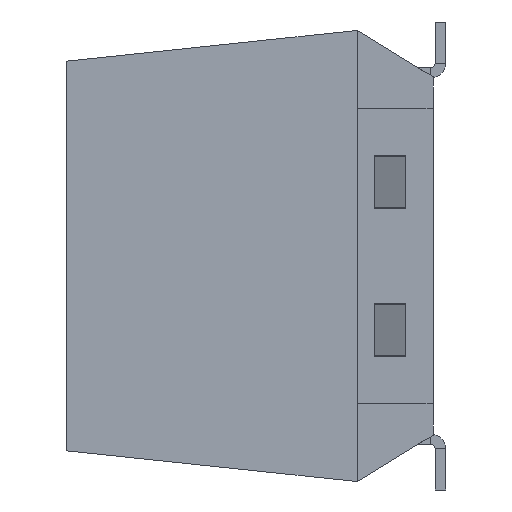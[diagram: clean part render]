
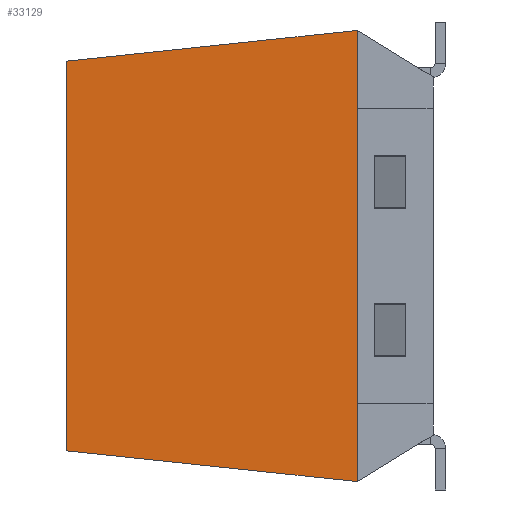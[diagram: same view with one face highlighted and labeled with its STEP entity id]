
A CAD part, left-side view. The second image highlights one B-rep face of the part: STEP entity #33129.
In plain terms, the highlighted planar face has unit normal (-1, 0.015, 0).
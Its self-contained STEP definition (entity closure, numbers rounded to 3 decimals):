
#29253 = PLANE('',#29254);
#29254 = AXIS2_PLACEMENT_3D('',#29255,#29256,#29257);
#29255 = CARTESIAN_POINT('',(7.52,9.05,0.));
#29256 = DIRECTION('',(0.,1.,0.));
#29257 = DIRECTION('',(-1.,0.,0.));
#29960 = VERTEX_POINT('',#29961);
#29961 = CARTESIAN_POINT('',(-7.52,9.05,-4.62));
#29975 = PLANE('',#29976);
#29976 = AXIS2_PLACEMENT_3D('',#29977,#29978,#29979);
#29977 = CARTESIAN_POINT('',(0.,9.05,-4.62));
#29978 = DIRECTION('',(0.,-0.105,0.994
    ));
#29979 = DIRECTION('',(0.,-0.994,
    -0.105));
#29987 = EDGE_CURVE('',#29988,#29960,#29990,.T.);
#29988 = VERTEX_POINT('',#29989);
#29989 = CARTESIAN_POINT('',(-7.52,9.05,4.62));
#29990 = SURFACE_CURVE('',#29991,(#29995,#30002),.PCURVE_S1.);
#29991 = LINE('',#29992,#29993);
#29992 = CARTESIAN_POINT('',(-7.52,9.05,0.));
#29993 = VECTOR('',#29994,1.);
#29994 = DIRECTION('',(0.,0.,-1.));
#29995 = PCURVE('',#29253,#29996);
#29996 = DEFINITIONAL_REPRESENTATION('',(#29997),#30001);
#29997 = LINE('',#29998,#29999);
#29998 = CARTESIAN_POINT('',(15.04,0.));
#29999 = VECTOR('',#30000,1.);
#30000 = DIRECTION('',(0.,-1.));
#30001 = ( GEOMETRIC_REPRESENTATION_CONTEXT(2) 
PARAMETRIC_REPRESENTATION_CONTEXT() REPRESENTATION_CONTEXT('2D SPACE',''
  ) );
#30002 = PCURVE('',#30003,#30008);
#30003 = PLANE('',#30004);
#30004 = AXIS2_PLACEMENT_3D('',#30005,#30006,#30007);
#30005 = CARTESIAN_POINT('',(-7.52,9.05,0.));
#30006 = DIRECTION('',(-1.,0.014,
    0.));
#30007 = DIRECTION('',(-0.014,-1.,
    0.));
#30008 = DEFINITIONAL_REPRESENTATION('',(#30009),#30013);
#30009 = LINE('',#30010,#30011);
#30010 = CARTESIAN_POINT('',(-0.,0.));
#30011 = VECTOR('',#30012,1.);
#30012 = DIRECTION('',(0.,-1.));
#30013 = ( GEOMETRIC_REPRESENTATION_CONTEXT(2) 
PARAMETRIC_REPRESENTATION_CONTEXT() REPRESENTATION_CONTEXT('2D SPACE',''
  ) );
#30031 = PLANE('',#30032);
#30032 = AXIS2_PLACEMENT_3D('',#30033,#30034,#30035);
#30033 = CARTESIAN_POINT('',(0.,2.15,5.35));
#30034 = DIRECTION('',(0.,-0.105,
    -0.994));
#30035 = DIRECTION('',(0.,0.994,-0.105
    ));
#31448 = PLANE('',#31449);
#31449 = AXIS2_PLACEMENT_3D('',#31450,#31451,#31452);
#31450 = CARTESIAN_POINT('',(-7.62,2.15,0.));
#31451 = DIRECTION('',(0.,-1.,0.));
#31452 = DIRECTION('',(1.,0.,0.));
#33015 = VERTEX_POINT('',#33016);
#33016 = CARTESIAN_POINT('',(-7.62,2.15,-5.35));
#33037 = EDGE_CURVE('',#29960,#33015,#33038,.T.);
#33038 = SURFACE_CURVE('',#33039,(#33043,#33050),.PCURVE_S1.);
#33039 = LINE('',#33040,#33041);
#33040 = CARTESIAN_POINT('',(-7.516,9.346,
    -4.589));
#33041 = VECTOR('',#33042,1.);
#33042 = DIRECTION('',(-0.014,-0.994,
    -0.105));
#33043 = PCURVE('',#29975,#33044);
#33044 = DEFINITIONAL_REPRESENTATION('',(#33045),#33049);
#33045 = LINE('',#33046,#33047);
#33046 = CARTESIAN_POINT('',(-0.297,-7.516));
#33047 = VECTOR('',#33048,1.);
#33048 = DIRECTION('',(1.,-0.014));
#33049 = ( GEOMETRIC_REPRESENTATION_CONTEXT(2) 
PARAMETRIC_REPRESENTATION_CONTEXT() REPRESENTATION_CONTEXT('2D SPACE',''
  ) );
#33050 = PCURVE('',#30003,#33051);
#33051 = DEFINITIONAL_REPRESENTATION('',(#33052),#33056);
#33052 = LINE('',#33053,#33054);
#33053 = CARTESIAN_POINT('',(-0.296,-4.589));
#33054 = VECTOR('',#33055,1.);
#33055 = DIRECTION('',(0.994,-0.105));
#33056 = ( GEOMETRIC_REPRESENTATION_CONTEXT(2) 
PARAMETRIC_REPRESENTATION_CONTEXT() REPRESENTATION_CONTEXT('2D SPACE',''
  ) );
#33062 = EDGE_CURVE('',#33063,#29988,#33065,.T.);
#33063 = VERTEX_POINT('',#33064);
#33064 = CARTESIAN_POINT('',(-7.62,2.15,5.35));
#33065 = SURFACE_CURVE('',#33066,(#33070,#33077),.PCURVE_S1.);
#33066 = LINE('',#33067,#33068);
#33067 = CARTESIAN_POINT('',(-7.566,5.896,
    4.954));
#33068 = VECTOR('',#33069,1.);
#33069 = DIRECTION('',(0.014,0.994,-0.105
    ));
#33070 = PCURVE('',#30031,#33071);
#33071 = DEFINITIONAL_REPRESENTATION('',(#33072),#33076);
#33072 = LINE('',#33073,#33074);
#33073 = CARTESIAN_POINT('',(3.767,-7.566));
#33074 = VECTOR('',#33075,1.);
#33075 = DIRECTION('',(1.,0.014));
#33076 = ( GEOMETRIC_REPRESENTATION_CONTEXT(2) 
PARAMETRIC_REPRESENTATION_CONTEXT() REPRESENTATION_CONTEXT('2D SPACE',''
  ) );
#33077 = PCURVE('',#30003,#33078);
#33078 = DEFINITIONAL_REPRESENTATION('',(#33079),#33083);
#33079 = LINE('',#33080,#33081);
#33080 = CARTESIAN_POINT('',(3.154,4.954));
#33081 = VECTOR('',#33082,1.);
#33082 = DIRECTION('',(-0.994,-0.105));
#33083 = ( GEOMETRIC_REPRESENTATION_CONTEXT(2) 
PARAMETRIC_REPRESENTATION_CONTEXT() REPRESENTATION_CONTEXT('2D SPACE',''
  ) );
#33129 = ADVANCED_FACE('',(#33130),#30003,.T.);
#33130 = FACE_BOUND('',#33131,.T.);
#33131 = EDGE_LOOP('',(#33132,#33133,#33154,#33155));
#33132 = ORIENTED_EDGE('',*,*,#33037,.T.);
#33133 = ORIENTED_EDGE('',*,*,#33134,.F.);
#33134 = EDGE_CURVE('',#33063,#33015,#33135,.T.);
#33135 = SURFACE_CURVE('',#33136,(#33140,#33147),.PCURVE_S1.);
#33136 = LINE('',#33137,#33138);
#33137 = CARTESIAN_POINT('',(-7.62,2.15,0.));
#33138 = VECTOR('',#33139,1.);
#33139 = DIRECTION('',(0.,0.,-1.));
#33140 = PCURVE('',#30003,#33141);
#33141 = DEFINITIONAL_REPRESENTATION('',(#33142),#33146);
#33142 = LINE('',#33143,#33144);
#33143 = CARTESIAN_POINT('',(6.901,0.));
#33144 = VECTOR('',#33145,1.);
#33145 = DIRECTION('',(0.,-1.));
#33146 = ( GEOMETRIC_REPRESENTATION_CONTEXT(2) 
PARAMETRIC_REPRESENTATION_CONTEXT() REPRESENTATION_CONTEXT('2D SPACE',''
  ) );
#33147 = PCURVE('',#31448,#33148);
#33148 = DEFINITIONAL_REPRESENTATION('',(#33149),#33153);
#33149 = LINE('',#33150,#33151);
#33150 = CARTESIAN_POINT('',(0.,0.));
#33151 = VECTOR('',#33152,1.);
#33152 = DIRECTION('',(0.,-1.));
#33153 = ( GEOMETRIC_REPRESENTATION_CONTEXT(2) 
PARAMETRIC_REPRESENTATION_CONTEXT() REPRESENTATION_CONTEXT('2D SPACE',''
  ) );
#33154 = ORIENTED_EDGE('',*,*,#33062,.T.);
#33155 = ORIENTED_EDGE('',*,*,#29987,.T.);
